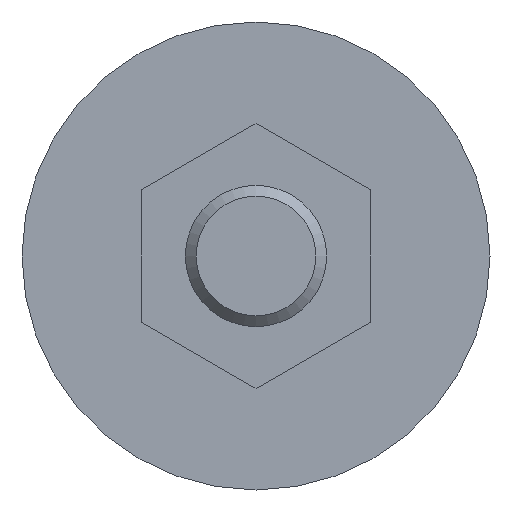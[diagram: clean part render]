
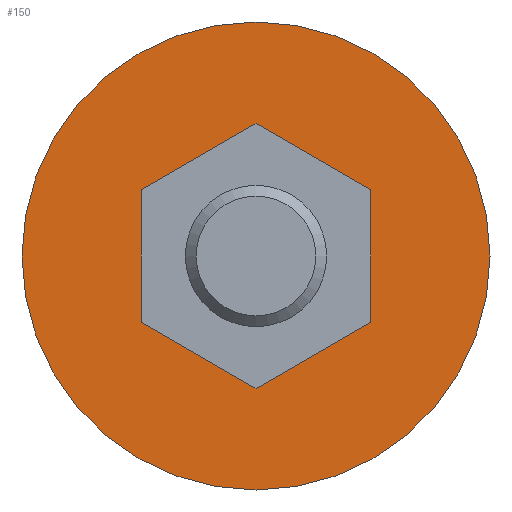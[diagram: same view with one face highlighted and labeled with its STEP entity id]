
A CAD part, front view. The second image highlights one B-rep face of the part: STEP entity #150.
In plain terms, the highlighted planar face has unit normal (0, -1, 0).
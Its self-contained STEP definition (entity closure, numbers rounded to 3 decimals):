
#150 = ADVANCED_FACE( '', ( #200, #201 ), #202, .F. );
#200 = FACE_BOUND( '', #285, .T. );
#201 = FACE_OUTER_BOUND( '', #286, .T. );
#202 = PLANE( '', #287 );
#285 = EDGE_LOOP( '', ( #391, #392, #393, #394, #395, #396 ) );
#286 = EDGE_LOOP( '', ( #397 ) );
#287 = AXIS2_PLACEMENT_3D( '', #398, #399, #400 );
#391 = ORIENTED_EDGE( '', *, *, #415, .T. );
#392 = ORIENTED_EDGE( '', *, *, #411, .T. );
#393 = ORIENTED_EDGE( '', *, *, #414, .T. );
#394 = ORIENTED_EDGE( '', *, *, #421, .T. );
#395 = ORIENTED_EDGE( '', *, *, #419, .T. );
#396 = ORIENTED_EDGE( '', *, *, #417, .T. );
#397 = ORIENTED_EDGE( '', *, *, #430, .T. );
#398 = CARTESIAN_POINT( '', ( 13.25, 3.3, 0. ) );
#399 = DIRECTION( '', ( 0., 1., 0. ) );
#400 = DIRECTION( '', ( 0., 0., 1. ) );
#411 = EDGE_CURVE( '', #451, #449, #452, .T. );
#414 = EDGE_CURVE( '', #449, #454, #456, .T. );
#415 = EDGE_CURVE( '', #457, #451, #458, .T. );
#417 = EDGE_CURVE( '', #460, #457, #461, .T. );
#419 = EDGE_CURVE( '', #463, #460, #464, .T. );
#421 = EDGE_CURVE( '', #454, #463, #466, .T. );
#430 = EDGE_CURVE( '', #481, #481, #482, .T. );
#449 = VERTEX_POINT( '', #507 );
#451 = VERTEX_POINT( '', #510 );
#452 = LINE( '', #511, #512 );
#454 = VERTEX_POINT( '', #515 );
#456 = LINE( '', #518, #519 );
#457 = VERTEX_POINT( '', #520 );
#458 = LINE( '', #521, #522 );
#460 = VERTEX_POINT( '', #525 );
#461 = LINE( '', #526, #527 );
#463 = VERTEX_POINT( '', #530 );
#464 = LINE( '', #531, #532 );
#466 = LINE( '', #535, #536 );
#481 = VERTEX_POINT( '', #551 );
#482 = CIRCLE( '', #552, 13.25 );
#507 = CARTESIAN_POINT( '', ( 0., 3.3, -7.506 ) );
#510 = CARTESIAN_POINT( '', ( 6.5, 3.3, -3.753 ) );
#511 = CARTESIAN_POINT( '', ( 6.5, 3.3, -3.753 ) );
#512 = VECTOR( '', #569, 1000. );
#515 = CARTESIAN_POINT( '', ( -6.5, 3.3, -3.753 ) );
#518 = CARTESIAN_POINT( '', ( 0., 3.3, -7.506 ) );
#519 = VECTOR( '', #572, 1000. );
#520 = CARTESIAN_POINT( '', ( 6.5, 3.3, 3.753 ) );
#521 = CARTESIAN_POINT( '', ( 6.5, 3.3, 3.753 ) );
#522 = VECTOR( '', #573, 1000. );
#525 = CARTESIAN_POINT( '', ( 0., 3.3, 7.506 ) );
#526 = CARTESIAN_POINT( '', ( 0., 3.3, 7.506 ) );
#527 = VECTOR( '', #575, 1000. );
#530 = CARTESIAN_POINT( '', ( -6.5, 3.3, 3.753 ) );
#531 = CARTESIAN_POINT( '', ( -6.5, 3.3, 3.753 ) );
#532 = VECTOR( '', #577, 1000. );
#535 = CARTESIAN_POINT( '', ( -6.5, 3.3, -3.753 ) );
#536 = VECTOR( '', #579, 1000. );
#551 = CARTESIAN_POINT( '', ( 0., 3.3, -13.25 ) );
#552 = AXIS2_PLACEMENT_3D( '', #601, #602, #603 );
#569 = DIRECTION( '', ( -0.866, 0., -0.5 ) );
#572 = DIRECTION( '', ( -0.866, 0., 0.5 ) );
#573 = DIRECTION( '', ( 0., 0., -1. ) );
#575 = DIRECTION( '', ( 0.866, 0., -0.5 ) );
#577 = DIRECTION( '', ( 0.866, 0., 0.5 ) );
#579 = DIRECTION( '', ( 0., 0., 1. ) );
#601 = CARTESIAN_POINT( '', ( 0., 3.3, 0. ) );
#602 = DIRECTION( '', ( 0., -1., 0. ) );
#603 = DIRECTION( '', ( 0., 0., -1. ) );
